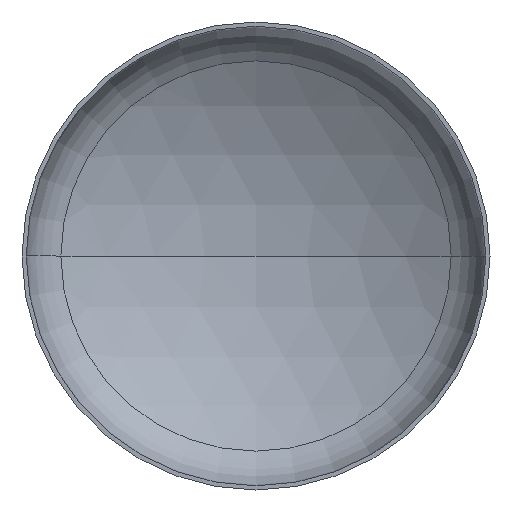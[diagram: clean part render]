
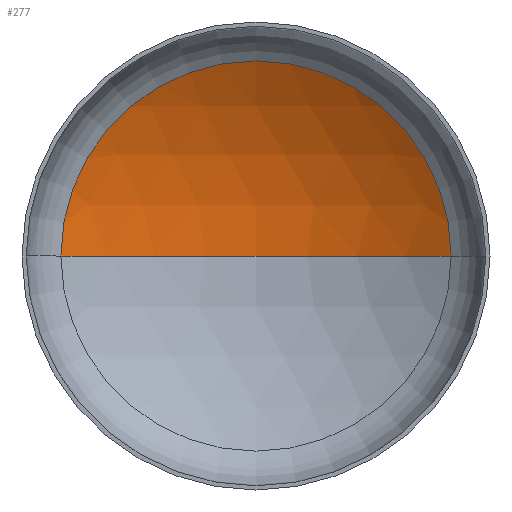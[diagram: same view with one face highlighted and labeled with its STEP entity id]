
A CAD part, front view. The second image highlights one B-rep face of the part: STEP entity #277.
In plain terms, the highlighted spherical face has radius 880 mm.
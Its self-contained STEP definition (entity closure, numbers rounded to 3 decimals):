
#18 = EDGE_LOOP ( 'NONE', ( #38, #385, #193 ) ) ;
#20 = AXIS2_PLACEMENT_3D ( 'NONE', #390, #240, #408 ) ;
#34 = DIRECTION ( 'NONE',  ( 1., 0., 0. ) ) ;
#36 = DIRECTION ( 'NONE',  ( 0., -1., 0. ) ) ;
#38 = ORIENTED_EDGE ( 'NONE', *, *, #366, .F. ) ;
#40 = CARTESIAN_POINT ( 'NONE',  ( 0., 175.091, 0. ) ) ;
#47 = VERTEX_POINT ( 'NONE', #342 ) ;
#53 = AXIS2_PLACEMENT_3D ( 'NONE', #164, #126, #124 ) ;
#70 = AXIS2_PLACEMENT_3D ( 'NONE', #399, #397, #395 ) ;
#77 = CIRCLE ( 'NONE', #20, 880. ) ;
#80 = AXIS2_PLACEMENT_3D ( 'NONE', #40, #36, #34 ) ;
#86 = VERTEX_POINT ( 'NONE', #226 ) ;
#119 = VERTEX_POINT ( 'NONE', #326 ) ;
#124 = DIRECTION ( 'NONE',  ( -1., 0., 0. ) ) ;
#126 = DIRECTION ( 'NONE',  ( 0., 0., -1. ) ) ;
#164 = CARTESIAN_POINT ( 'NONE',  ( 0., -575.97, 0. ) ) ;
#193 = ORIENTED_EDGE ( 'NONE', *, *, #197, .T. ) ;
#197 = EDGE_CURVE ( 'NONE', #86, #119, #345, .T. ) ;
#208 = EDGE_CURVE ( 'NONE', #47, #86, #401, .T. ) ;
#226 = CARTESIAN_POINT ( 'NONE',  ( 458.592, 175.091, 0. ) ) ;
#240 = DIRECTION ( 'NONE',  ( 0., 0., 1. ) ) ;
#275 = SPHERICAL_SURFACE ( 'NONE', #53, 880. ) ;
#277 = ADVANCED_FACE ( 'NONE', ( #393 ), #275, .F. ) ;
#326 = CARTESIAN_POINT ( 'NONE',  ( -458.592, 175.091, 0. ) ) ;
#342 = CARTESIAN_POINT ( 'NONE',  ( 0., 304.03, 0. ) ) ;
#345 = CIRCLE ( 'NONE', #80, 458.592 ) ;
#366 = EDGE_CURVE ( 'NONE', #47, #119, #77, .T. ) ;
#385 = ORIENTED_EDGE ( 'NONE', *, *, #208, .T. ) ;
#390 = CARTESIAN_POINT ( 'NONE',  ( 0., -575.97, 0. ) ) ;
#393 = FACE_OUTER_BOUND ( 'NONE', #18, .T. ) ;
#395 = DIRECTION ( 'NONE',  ( -1., 0., 0. ) ) ;
#397 = DIRECTION ( 'NONE',  ( 0., 0., -1. ) ) ;
#399 = CARTESIAN_POINT ( 'NONE',  ( 0., -575.97, 0. ) ) ;
#401 = CIRCLE ( 'NONE', #70, 880. ) ;
#408 = DIRECTION ( 'NONE',  ( 1., 0., 0. ) ) ;
